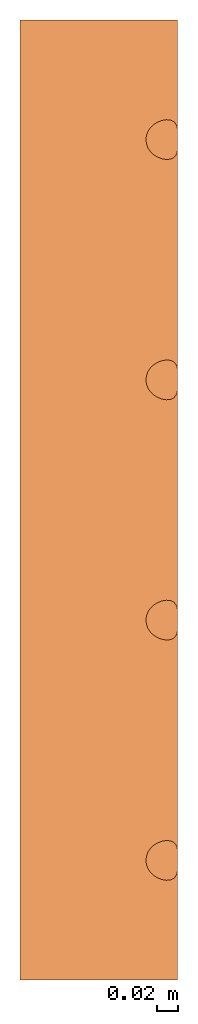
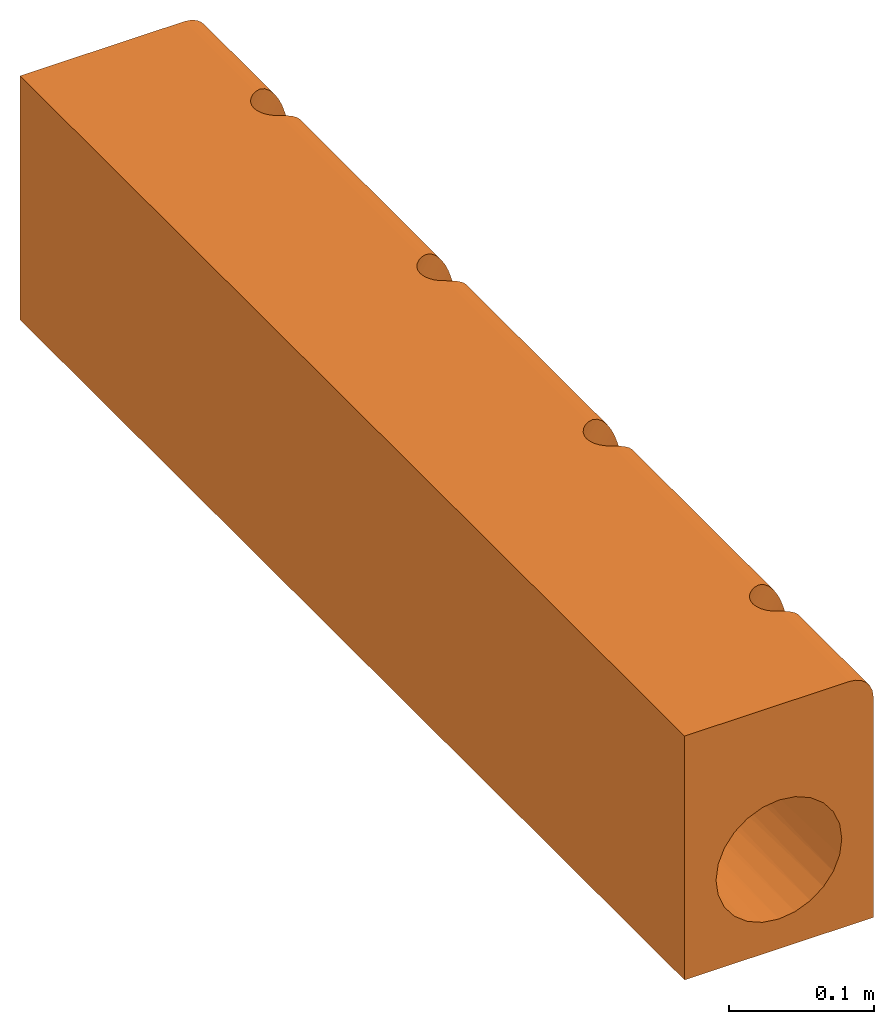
# One storey: 1 proxy.
"""IFC2X3 building model written with IfcOpenShell, lengths in millimetres."""

from ifc_helpers import new_model, entity, si_unit, converted_unit, direction, frame, origin, place, context, subcontext, project, spatial, faceted_brep, source, transform, mapped, material, element, save


model = new_model("IFC2X3")

# Units and contexts
model_context = context("Model", 3, precision=1e-06, world=origin(), true_north=direction((2.0, 6.12303176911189e-17, 1.0)))
context_of_model = context(None, 3, precision=1e-06, world=origin(), true_north=direction((2.0, 6.12303176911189e-17, 1.0)))
body_context = subcontext(model_context, "Body", "Model", "MODEL_VIEW")
ifc_project = project(units=[si_unit("LENGTHUNIT", "METRE", prefix="MILLI"), si_unit("AREAUNIT", "SQUARE_METRE", prefix="MILLI"), si_unit("VOLUMEUNIT", "CUBIC_METRE", prefix="MILLI"), converted_unit("PLANEANGLEUNIT", "DEGREE", entity("IfcRatioMeasure", 0.0174532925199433), si_unit("PLANEANGLEUNIT", "RADIAN"), dimensions=[0, 0, 0, 0, 0, 0, 0]), si_unit("TIMEUNIT", "SECOND")], contexts=[model_context, context_of_model])

# Site, building, storey
site_placement = place(None, origin())
site = spatial("IfcSite", under=ifc_project, at=site_placement, Name="Default", CompositionType="ELEMENT")
building_placement = place(site_placement, origin())
building = spatial("IfcBuilding", under=site, at=building_placement, CompositionType="ELEMENT")
storey_placement = place(building_placement, frame((0.0, 0.0, -300.0)))
storey = spatial("IfcBuildingStorey", under=building, at=storey_placement, Name="T.O. Fnd. Wall", CompositionType="ELEMENT", Elevation=-300.0)

# Proxy
ifc_material = material(Name="ACO Polymer Concrete.")
shared_shape = source(origin(), body_context, "Body", "Brep", [
    faceted_brep([(75.0, 352.738023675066, 6.0), (75.0, 562.261976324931, 6.0), (74.6330494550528, 559.490417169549, 9.71610925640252), (74.6330494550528, 355.509582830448, 9.71610925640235), (73.4842917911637, 358.057012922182, 13.4363660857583), (73.4842917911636, 556.942987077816, 13.4363660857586), (71.455145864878, 554.83148414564, 17.0516273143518), (71.4551458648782, 360.168515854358, 17.0516273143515), (68.4733641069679, 553.424261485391, 20.3323127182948), (68.4733641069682, 361.575738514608, 20.3323127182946), (64.6347644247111, 553.009613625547, 22.9245633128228), (64.6347644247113, 361.990386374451, 22.9245633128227), (60.3150928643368, 361.283076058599, 24.503512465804), (60.3150928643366, 553.7169239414, 24.503512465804), (56.0, 555.398231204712, 25.0), (56.0, 359.601768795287, 25.0), (75.0, 581.738023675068, 6.0), (75.0, 791.261976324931, 6.0), (74.6330494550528, 788.490417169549, 9.71610925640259), (74.6330494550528, 584.509582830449, 9.71610925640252), (73.4842917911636, 587.057012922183, 13.4363660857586), (73.4842917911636, 785.942987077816, 13.4363660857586), (71.455145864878, 783.83148414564, 17.0516273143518), (71.455145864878, 589.168515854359, 17.0516273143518), (68.4733641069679, 782.42426148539, 20.3323127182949), (68.4733641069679, 590.575738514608, 20.3323127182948), (64.634764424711, 782.009613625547, 22.9245633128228), (64.634764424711, 590.990386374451, 22.9245633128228), (60.3150928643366, 590.283076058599, 24.503512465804), (60.3150928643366, 782.7169239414, 24.5035124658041), (56.0, 784.398231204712, 25.0), (56.0, 588.601768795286, 25.0), (74.6330494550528, 813.509582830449, 9.71610925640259), (75.0, 915.0, 6.0), (74.3525906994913, 915.0, 10.9175618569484), (73.4842917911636, 816.057012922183, 13.4363660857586), (72.4544826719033, 915.0, 15.5000000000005), (75.0, 810.738023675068, 6.0), (71.455145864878, 818.168515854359, 17.0516273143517), (69.4350288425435, 915.0, 19.4350288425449), (68.4733641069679, 819.575738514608, 20.3323127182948), (65.4999999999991, 915.0, 22.4544826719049), (64.6347644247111, 819.990386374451, 22.9245633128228), (60.9175618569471, 915.0, 24.3525906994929), (60.3150928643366, 819.283076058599, 24.5035124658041), (56.0, 915.0, 25.0), (56.0, 817.601768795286, 25.0), (75.0, 123.738023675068, 6.0), (75.0, 333.261976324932, 6.0), (74.6330494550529, 330.490417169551, 9.7161092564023), (74.6330494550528, 126.509582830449, 9.7161092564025), (73.4842917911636, 129.057012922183, 13.4363660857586), (73.4842917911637, 327.942987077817, 13.4363660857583), (71.4551458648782, 325.83148414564, 17.0516273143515), (71.4551458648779, 131.168515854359, 17.0516273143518), (68.4733641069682, 324.424261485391, 20.3323127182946), (68.4733641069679, 132.575738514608, 20.3323127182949), (64.6347644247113, 324.009613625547, 22.9245633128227), (64.634764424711, 132.990386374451, 22.9245633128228), (60.3150928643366, 132.283076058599, 24.503512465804), (60.3150928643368, 324.7169239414, 24.503512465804), (56.0, 326.398231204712, 25.0), (56.0, 130.601768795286, 25.0), (-75.0, 0.0, -180.0), (-35.3553390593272, 0.0, -140.355339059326), (-43.3012701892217, 0.0, -130.0), (-25.0, 0.0, -148.301270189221), (-48.2962913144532, 0.0, -117.940952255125), (-50.0, 0.0, -105.0), (75.0, 0.0, -180.0), (12.9409522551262, 0.0, -153.296291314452), (0.0, 0.0, -155.0), (-12.9409522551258, 0.0, -153.296291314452), (-48.2962913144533, 0.0, -92.0590477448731), (-75.0, 0.0, 25.0), (-43.3012701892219, 0.0, -80.0), (-35.3553390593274, 0.0, -69.6446609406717), (-25.0, 0.0, -61.6987298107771), (0.0, 0.0, -55.0), (56.0, 0.0, 25.0), (-12.9409522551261, 0.0, -56.7037086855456), (6.47047612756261, 0.0, -55.8518543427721), (12.9409522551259, 0.0, -56.7037086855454), (35.3553390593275, 0.0, -140.355339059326), (25.0, 0.0, -148.301270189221), (43.3012701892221, 0.0, -130.0), (50.0, 0.0, -105.0), (48.2962913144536, 0.0, -117.940952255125), (75.0, 0.0, 6.0), (48.2962913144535, 0.0, -92.0590477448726), (43.3012701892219, 0.0, -80.0), (18.9704761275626, 0.0, -59.201219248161), (72.4544826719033, 0.0, 15.5000000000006), (60.9175618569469, 0.0, 24.3525906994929), (74.3525906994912, 0.0, 10.9175618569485), (25.0, 0.0, -61.6987298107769), (30.1776695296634, 0.0, -65.6716953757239), (35.3553390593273, 0.0, -69.6446609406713), (69.4350288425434, 0.0, 19.435028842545), (65.499999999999, 0.0, 22.4544826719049), (39.3283046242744, 0.0, -74.8223304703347), (75.0, 915.0, -180.0), (48.2962913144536, 915.0, -117.940952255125), (50.0, 915.0, -105.0), (43.3012701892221, 915.0, -130.0), (48.2962913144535, 915.0, -92.0590477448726), (25.0, 915.0, -148.301270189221), (35.3553390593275, 915.0, -140.355339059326), (12.9409522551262, 915.0, -153.296291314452), (43.3012701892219, 915.0, -80.0), (12.9409522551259, 915.0, -56.7037086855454), (6.47047612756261, 915.0, -55.8518543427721), (25.0, 915.0, -61.6987298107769), (18.9704761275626, 915.0, -59.201219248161), (35.3553390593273, 915.0, -69.6446609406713), (30.1776695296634, 915.0, -65.6716953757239), (39.3283046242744, 915.0, -74.8223304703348), (-12.9409522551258, 915.0, -153.296291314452), (0.0, 915.0, -155.0), (-75.0, 915.0, -180.0), (-25.0, 915.0, -148.301270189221), (-35.3553390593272, 915.0, -140.355339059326), (-43.3012701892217, 915.0, -130.0), (-48.2962913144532, 915.0, -117.940952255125), (-50.0, 915.0, -105.0), (-75.0, 915.0, 25.0), (0.0, 915.0, -55.0), (-12.9409522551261, 915.0, -56.7037086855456), (-25.0, 915.0, -61.6987298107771), (-48.2962913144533, 915.0, -92.0590477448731), (-35.3553390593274, 915.0, -69.6446609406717), (-43.3012701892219, 915.0, -80.0), (75.0, 114.0, 0.085216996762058), (75.0, 111.451605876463, 0.463371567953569), (75.0, 116.548394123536, 0.463371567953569), (75.0, 119.050735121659, 1.59100148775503), (75.0, 337.94926487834, 1.59100148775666), (75.0, 108.949264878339, 1.591001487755), (75.0, 345.548394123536, 0.463371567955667), (75.0, 343.0, 0.0852169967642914), (75.0, 340.451605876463, 0.463371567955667), (75.0, 569.451605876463, 0.463371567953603), (75.0, 348.050735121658, 1.59100148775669), (75.0, 335.538197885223, 3.44772887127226), (75.0, 121.461802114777, 3.44772887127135), (75.0, 106.538197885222, 3.44772887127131), (75.0, 104.261976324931, 6.0), (75.0, 350.461802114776, 3.44772887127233), (75.0, 564.538197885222, 3.44772887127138), (75.0, 566.949264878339, 1.59100148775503), (75.0, 572.0, 0.0852169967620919), (75.0, 577.050735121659, 1.59100148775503), (75.0, 574.548394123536, 0.463371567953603), (75.0, 801.0, 0.085216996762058), (75.0, 803.548394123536, 0.463371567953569), (75.0, 798.451605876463, 0.463371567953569), (75.0, 795.949264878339, 1.591001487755), (75.0, 806.050735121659, 1.591001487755), (75.0, 579.461802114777, 3.44772887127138), (75.0, 793.538197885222, 3.44772887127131), (75.0, 808.461802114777, 3.44772887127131), (56.0, 97.3982312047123, 25.0), (52.3022377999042, 99.7215002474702, 25.0), (49.2378531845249, 102.687611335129, 25.0), (52.3022377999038, 328.721500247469, 25.0), (49.2378531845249, 125.312388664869, 25.0), (52.3022377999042, 128.278499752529, 25.0), (49.2378531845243, 331.687611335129, 25.0), (46.9448098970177, 121.83697483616, 25.0), (52.3022377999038, 357.278499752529, 25.0), (52.3022377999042, 557.72150024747, 25.0), (46.9448098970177, 106.163025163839, 25.0), (45.5263445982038, 109.991272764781, 25.0), (45.046318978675, 114.0, 25.0), (45.5263445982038, 118.008727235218, 25.0), (46.9448098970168, 335.163025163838, 25.0), (46.9448098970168, 350.83697483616, 25.0), (49.2378531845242, 354.31238866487, 25.0), (46.9448098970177, 564.163025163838, 25.0), (45.5263445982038, 567.991272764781, 25.0), (45.0463189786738, 343.0, 25.0), (45.5263445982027, 347.008727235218, 25.0), (45.5263445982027, 338.991272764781, 25.0), (49.237853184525, 560.687611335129, 25.0), (52.3022377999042, 786.72150024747, 25.0), (52.3022377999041, 586.278499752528, 25.0), (49.2378531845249, 583.312388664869, 25.0), (49.2378531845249, 789.687611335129, 25.0), (46.9448098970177, 793.163025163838, 25.0), (52.3022377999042, 815.278499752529, 25.0), (49.2378531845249, 812.312388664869, 25.0), (45.046318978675, 572.0, 25.0), (45.5263445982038, 576.008727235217, 25.0), (46.9448098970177, 579.83697483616, 25.0), (45.5263445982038, 805.008727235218, 25.0), (46.9448098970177, 808.83697483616, 25.0), (45.5263445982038, 796.991272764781, 25.0), (45.046318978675, 801.0, 25.0), (74.6330494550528, 101.490417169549, 9.7161092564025), (73.4842917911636, 98.9429870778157, 13.4363660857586), (71.455145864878, 96.8314841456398, 17.0516273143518), (68.4733641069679, 95.4242614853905, 20.3323127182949), (64.634764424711, 95.0096136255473, 22.9245633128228), (60.3150928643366, 95.7169239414, 24.503512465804), (-46.1939766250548, 457.499999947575, -85.8658283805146), (-39.667667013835, 347.332705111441, -74.5619285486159), (-11.072826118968, 457.50000007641, -56.2414876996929), (-21.2473415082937, 319.428371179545, -59.739084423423), (-30.438071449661, 457.499999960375, -65.3323329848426), (4.19448053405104, 343.0, -55.176247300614), (-49.039264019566, 307.805136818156, -95.2454838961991), (4.19448053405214, 114.0, -55.1762473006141), (5.43633829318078, 120.540044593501, -55.2964163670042), (4.81540941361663, 117.27002229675, -55.2363318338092), (4.81540941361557, 339.729977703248, -55.236331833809), (4.19448053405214, 572.0, -55.1762473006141), (8.87975325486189, 126.225202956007, -55.7948175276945), (5.43633829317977, 336.459955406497, -55.2964163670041), (8.87975325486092, 330.774797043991, -55.7948175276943), (4.81540941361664, 110.729977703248, -55.2363318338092), (5.43633829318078, 107.459955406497, -55.2964163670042), (38.008787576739, 801.0, -72.5141251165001), (13.9032262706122, 97.565335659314, -56.971880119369), (16.851806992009, 96.4287615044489, -58.0297609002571), (19.8003877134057, 95.2921873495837, -59.0876416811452), (8.87975325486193, 101.774797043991, -55.7948175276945), (-39.6676670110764, 663.022798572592, -74.5619285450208), (-19.8042307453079, 639.427608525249, -59.0892992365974), (49.0792507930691, 299.075570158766, -95.4487099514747), (46.4301608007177, 457.499999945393, -86.4462896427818), (49.099429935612, 614.764322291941, -95.5529909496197), (-50.0, 457.499999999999, -105.0), (13.9032262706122, 130.434664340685, -56.971880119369), (13.9032262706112, 326.565335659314, -56.9718801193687), (30.8798420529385, 817.429417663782, -65.6752577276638), (34.7714966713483, 813.216245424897, -69.070304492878), (8.87975325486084, 355.225202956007, -55.7948175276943), (5.43633829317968, 349.540044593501, -55.2964163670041), (5.43633829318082, 565.459955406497, -55.2964163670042), (8.87975325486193, 559.774797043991, -55.7948175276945), (16.851806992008, 325.428761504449, -58.0297609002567), (19.8003877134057, 132.707812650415, -59.0876416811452), (16.8518069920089, 131.57123849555, -58.0297609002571), (-49.1517479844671, 621.55277200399, -95.8290856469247), (25.7229622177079, 132.704779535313, -62.1242584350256), (22.7616749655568, 132.706296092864, -60.6059500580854), (19.8003877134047, 324.292187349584, -59.0876416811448), (22.7616749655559, 324.293703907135, -60.6059500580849), (4.81540941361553, 346.27002229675, -55.236331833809), (4.81540941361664, 568.729977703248, -55.2363318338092), (5.43633829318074, 578.540044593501, -55.2964163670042), (4.81540941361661, 575.27002229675, -55.2363318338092), (4.19448053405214, 801.0, -55.1762473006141), (4.81540941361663, 797.729977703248, -55.2363318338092), (8.87975325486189, 584.225202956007, -55.7948175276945), (5.43633829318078, 794.459955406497, -55.2964163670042), (8.87975325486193, 788.774797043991, -55.7948175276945), (19.8003877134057, 819.707812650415, -59.0876416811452), (25.7229622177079, 95.2952204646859, -62.1242584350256), (28.3014021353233, 96.4329014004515, -63.8997580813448), (30.8798420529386, 97.5705823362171, -65.6752577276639), (5.43633829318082, 807.540044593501, -55.2964163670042), (4.81540941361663, 804.27002229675, -55.2363318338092), (37.1851455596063, 107.461596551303, -71.5744865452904), (37.5969665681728, 110.730798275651, -72.0443058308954), (38.008787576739, 114.0, -72.5141251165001), (13.9032262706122, 555.565335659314, -56.971880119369), (13.9032262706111, 359.434664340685, -56.9718801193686), (16.8518069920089, 554.428761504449, -58.0297609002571), (19.8003877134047, 361.707812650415, -59.0876416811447), (16.8518069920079, 360.57123849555, -58.0297609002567), (25.722962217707, 361.704779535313, -62.1242584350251), (22.7616749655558, 361.706296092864, -60.6059500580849), (19.8003877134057, 553.292187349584, -59.0876416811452), (22.7616749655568, 553.293703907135, -60.6059500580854), (8.87975325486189, 813.225202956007, -55.7948175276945), (19.8003877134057, 590.707812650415, -59.0876416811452), (16.8518069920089, 589.57123849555, -58.029760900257), (13.9032262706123, 784.565335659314, -56.971880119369), (16.851806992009, 783.428761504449, -58.0297609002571), (16.8518069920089, 818.57123849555, -58.0297609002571), (13.9032262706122, 817.434664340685, -56.971880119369), (13.9032262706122, 588.434664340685, -56.971880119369), (50.0, 493.801590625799, -105.0), (50.0, 457.499999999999, -105.0), (34.7714966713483, 101.783754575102, -69.070304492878), (34.7714966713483, 126.216245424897, -69.070304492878), (30.8798420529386, 130.429417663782, -65.6752577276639), (30.8798420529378, 326.570582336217, -65.6752577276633), (34.7714966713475, 330.783754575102, -69.0703044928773), (28.3014021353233, 131.567098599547, -63.8997580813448), (25.7229622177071, 324.295220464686, -62.1242584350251), (28.3014021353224, 325.432901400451, -63.8997580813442), (30.8798420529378, 359.429417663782, -65.6752577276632), (28.3014021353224, 360.567098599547, -63.8997580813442), (25.7229622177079, 553.295220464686, -62.1242584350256), (28.3014021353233, 554.432901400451, -63.8997580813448), (38.0087875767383, 343.0, -72.5141251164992), (37.1851455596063, 120.538403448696, -71.5744865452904), (37.1851455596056, 336.461596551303, -71.5744865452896), (37.5969665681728, 117.269201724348, -72.0443058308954), (37.5969665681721, 339.730798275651, -72.0443058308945), (37.1851455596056, 349.538403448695, -71.5744865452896), (34.7714966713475, 355.216245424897, -69.0703044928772), (34.7714966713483, 559.783754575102, -69.070304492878), (37.1851455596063, 565.461596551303, -71.5744865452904), (30.8798420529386, 555.570582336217, -65.6752577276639), (37.5969665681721, 346.269201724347, -72.0443058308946), (37.5969665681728, 568.730798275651, -72.0443058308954), (25.7229622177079, 590.704779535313, -62.1242584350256), (22.7616749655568, 590.706296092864, -60.6059500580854), (19.8003877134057, 782.292187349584, -59.0876416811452), (22.7616749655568, 782.293703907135, -60.6059500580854), (30.8798420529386, 588.429417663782, -65.6752577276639), (28.3014021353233, 589.567098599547, -63.8997580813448), (25.7229622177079, 782.295220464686, -62.1242584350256), (28.3014021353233, 783.432901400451, -63.8997580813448), (34.7714966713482, 584.216245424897, -69.070304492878), (30.8798420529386, 784.570582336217, -65.6752577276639), (34.7714966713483, 788.783754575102, -69.070304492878), (25.7229622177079, 819.704779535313, -62.1242584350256), (22.7616749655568, 819.706296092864, -60.6059500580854), (28.3014021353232, 818.567098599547, -63.8997580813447), (37.1851455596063, 578.538403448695, -71.5744865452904), (37.1851455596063, 794.461596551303, -71.5744865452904), (38.008787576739, 572.0, -72.5141251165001), (37.5969665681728, 575.269201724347, -72.0443058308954), (37.5969665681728, 797.730798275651, -72.0443058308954), (37.1851455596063, 807.538403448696, -71.5744865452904), (37.5969665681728, 804.269201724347, -72.0443058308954), (22.7616749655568, 95.2937039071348, -60.6059500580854), (30.4380713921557, 663.022799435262, -144.667667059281), (46.1939765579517, 251.97720488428, -124.134171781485), (39.6676669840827, 457.500000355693, -135.438071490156), (30.4380714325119, 347.33270578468, -144.667667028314), (19.1341716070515, 457.499999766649, -151.193976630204), (-39.6676670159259, 251.977201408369, -135.438071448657), (-30.4380714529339, 347.332705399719, -144.667667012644), (-39.6676670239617, 567.667294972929, -135.438071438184), (-30.4380714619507, 663.022798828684, -144.667667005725), (6.526309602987, 347.332705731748, -154.572243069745), (49.087149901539, 586.520540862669, -114.510610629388), (49.2493073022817, 294.576737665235, -113.631670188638), (46.1939765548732, 567.667299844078, -124.134171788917), (6.52630957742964, 663.022799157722, -154.572243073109), (-19.134171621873, 457.49999987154, -151.193976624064), (-6.52630961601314, 251.977201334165, -154.57224306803), (-6.52630964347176, 567.667295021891, -154.572243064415), (-46.1939766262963, 457.499999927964, -124.134171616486), (-49.1517479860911, 293.447227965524, -114.170914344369), (-49.0392640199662, 607.194863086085, -114.754516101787)], [[[0, 1, 2, 3]], [[4, 5, 6, 7]], [[3, 2, 5, 4]], [[7, 6, 8, 9]], [[9, 8, 10, 11]], [[12, 13, 14, 15]], [[11, 10, 13, 12]], [[16, 17, 18, 19]], [[20, 21, 22, 23]], [[19, 18, 21, 20]], [[23, 22, 24, 25]], [[25, 24, 26, 27]], [[28, 29, 30, 31]], [[27, 26, 29, 28]], [[32, 33, 34]], [[35, 34, 36]], [[32, 37, 33]], [[38, 35, 36]], [[32, 34, 35]], [[36, 39, 38]], [[40, 39, 41]], [[42, 41, 43]], [[44, 43, 45]], [[42, 40, 41]], [[46, 44, 45]], [[42, 43, 44]], [[39, 40, 38]], [[47, 48, 49, 50]], [[51, 52, 53, 54]], [[50, 49, 52, 51]], [[54, 53, 55, 56]], [[56, 55, 57, 58]], [[59, 60, 61, 62]], [[58, 57, 60, 59]], [[63, 64, 65]], [[64, 63, 66]], [[65, 67, 63]], [[63, 67, 68]], [[69, 70, 71]], [[72, 66, 63]], [[71, 72, 63, 69]], [[68, 73, 74, 63]], [[74, 75, 76]], [[75, 74, 73]], [[76, 77, 74]], [[78, 79, 74, 80]], [[77, 80, 74]], [[79, 78, 81, 82]], [[83, 84, 69]], [[83, 69, 85]], [[86, 87, 69, 88]], [[69, 87, 85]], [[88, 89, 86]], [[84, 70, 69]], [[90, 89, 88]], [[88, 79, 82, 91]], [[92, 93, 79, 94]], [[88, 95, 96, 97]], [[98, 99, 93, 92]], [[94, 79, 88]], [[88, 97, 100, 90]], [[101, 102, 103, 33]], [[102, 101, 104]], [[33, 103, 105]], [[106, 107, 101]], [[107, 104, 101]], [[101, 108, 106]], [[105, 109, 33]], [[45, 36, 34, 33]], [[39, 36, 43, 41]], [[45, 33, 110, 111]], [[36, 45, 43]], [[33, 112, 113, 110]], [[33, 114, 115, 112]], [[33, 109, 116, 114]], [[117, 118, 119]], [[117, 119, 120]], [[118, 108, 101, 119]], [[121, 119, 122]], [[119, 121, 120]], [[123, 122, 119]], [[124, 123, 119, 125]], [[126, 127, 125, 45]], [[128, 125, 127]], [[129, 124, 125]], [[130, 131, 125]], [[125, 131, 129]], [[130, 125, 128]], [[69, 63, 119, 101]], [[69, 132, 133]], [[132, 69, 134]], [[135, 134, 69, 136]], [[69, 133, 137]], [[138, 139, 69, 101]], [[140, 136, 69]], [[141, 142, 138, 101]], [[139, 140, 69]], [[135, 136, 143, 144]], [[88, 145, 146]], [[137, 145, 88, 69]], [[48, 47, 144, 143]], [[0, 147, 148, 1]], [[149, 147, 142, 141]], [[150, 141, 101]], [[151, 152, 101]], [[150, 101, 152]], [[153, 101, 154]], [[101, 153, 155]], [[101, 155, 156, 151]], [[157, 154, 101, 33]], [[158, 151, 156, 159]], [[159, 17, 16, 158]], [[160, 33, 37]], [[33, 160, 157]], [[149, 148, 147]], [[79, 161, 162]], [[79, 162, 163, 74]], [[164, 165, 166, 61]], [[165, 164, 167, 168]], [[169, 15, 14, 170]], [[166, 62, 61]], [[171, 172, 74]], [[74, 173, 174]], [[173, 74, 172]], [[74, 174, 168, 175]], [[171, 74, 163]], [[175, 168, 167]], [[176, 177, 178, 179]], [[74, 180, 181, 125]], [[182, 180, 74]], [[176, 179, 181]], [[175, 182, 74]], [[177, 169, 183, 178]], [[184, 185, 31, 30]], [[186, 185, 187, 188]], [[189, 46, 45]], [[190, 189, 45, 125]], [[184, 187, 185]], [[191, 192, 125]], [[179, 191, 125, 181]], [[193, 125, 192]], [[193, 186, 188]], [[194, 195, 125]], [[196, 197, 125]], [[125, 197, 194]], [[188, 196, 125, 193]], [[195, 190, 125]], [[170, 183, 169]], [[119, 63, 74, 125]], [[198, 199, 94]], [[146, 198, 88]], [[88, 198, 94]], [[92, 200, 98]], [[92, 94, 199]], [[200, 92, 199]], [[201, 202, 99]], [[203, 161, 79]], [[202, 203, 93]], [[98, 201, 99]], [[99, 202, 93]], [[203, 79, 93]], [[201, 98, 200]], [[73, 204, 75]], [[204, 205, 75]], [[206, 80, 207]], [[77, 76, 208]], [[209, 78, 206]], [[204, 73, 210]], [[209, 211, 78]], [[212, 213, 209, 214]], [[206, 215, 209]], [[216, 212, 217, 218]], [[81, 211, 219, 220]], [[116, 109, 221]], [[78, 211, 81]], [[91, 222, 223, 224]], [[81, 225, 82]], [[226, 131, 130]], [[81, 220, 225]], [[82, 225, 222]], [[206, 207, 227]], [[228, 229, 230]], [[91, 82, 222]], [[231, 210, 68]], [[224, 95, 91]], [[232, 216, 218, 233]], [[128, 127, 227]], [[234, 115, 235]], [[207, 77, 208]], [[236, 237, 238, 239]], [[233, 240, 241, 242]], [[89, 229, 228]], [[243, 210, 231]], [[77, 207, 80]], [[244, 245, 246, 247]], [[80, 206, 78]], [[237, 248, 215, 249]], [[131, 204, 129]], [[250, 251, 252, 253]], [[252, 215, 126]], [[254, 250, 255, 256]], [[113, 112, 257]], [[96, 258, 259, 260]], [[124, 243, 231]], [[111, 261, 262, 252]], [[204, 226, 205]], [[215, 206, 126]], [[130, 128, 208]], [[227, 207, 208]], [[206, 127, 126]], [[100, 263, 264, 265]], [[68, 210, 73]], [[239, 266, 267, 236]], [[266, 268, 269, 270]], [[271, 272, 273, 274]], [[226, 130, 208]], [[129, 204, 243]], [[205, 226, 208]], [[103, 230, 105]], [[261, 111, 275]], [[205, 76, 75]], [[111, 110, 275]], [[205, 208, 76]], [[276, 277, 278, 279]], [[113, 257, 280, 281]], [[281, 275, 110]], [[131, 226, 204]], [[256, 278, 282, 254]], [[252, 126, 111]], [[128, 227, 208]], [[105, 229, 109]], [[230, 103, 283, 284]], [[96, 95, 258]], [[96, 260, 285]], [[285, 97, 96]], [[286, 287, 288, 289]], [[287, 290, 291, 292]], [[293, 294, 295, 296]], [[129, 243, 124]], [[97, 263, 100]], [[90, 100, 265]], [[229, 89, 90]], [[265, 297, 90]], [[297, 229, 90]], [[298, 286, 289, 299]], [[265, 300, 299, 301]], [[302, 303, 304, 305]], [[303, 293, 306, 304]], [[297, 307, 305, 308]], [[263, 97, 285]], [[284, 86, 228]], [[309, 310, 311, 312]], [[228, 230, 284]], [[313, 314, 315, 316]], [[317, 313, 318, 319]], [[112, 320, 321, 257]], [[210, 243, 204]], [[89, 228, 86]], [[281, 110, 113]], [[115, 234, 322, 320]], [[112, 115, 320]], [[206, 227, 127]], [[323, 317, 319, 324]], [[325, 326, 324, 327]], [[114, 328, 235]], [[116, 221, 329, 328]], [[235, 115, 114]], [[328, 114, 116]], [[109, 325, 221]], [[109, 229, 325]], [[297, 325, 229]], [[105, 230, 229]], [[95, 224, 330, 258]], [[331, 107, 106]], [[85, 332, 333]], [[334, 331, 335]], [[85, 333, 83]], [[70, 84, 335]], [[336, 64, 337]], [[121, 338, 339]], [[334, 83, 333]], [[107, 331, 333]], [[70, 335, 340]], [[341, 283, 103]], [[342, 332, 87]], [[337, 64, 66]], [[334, 84, 83]], [[102, 104, 343]], [[343, 104, 333]], [[332, 343, 333]], [[333, 104, 107]], [[334, 333, 331]], [[340, 71, 70]], [[335, 106, 108]], [[87, 86, 342]], [[344, 340, 335]], [[342, 341, 343]], [[66, 72, 345]], [[346, 71, 340]], [[118, 347, 344]], [[345, 337, 66]], [[67, 65, 348]], [[336, 65, 64]], [[118, 344, 108]], [[338, 348, 336]], [[121, 339, 120]], [[349, 231, 68]], [[347, 117, 345]], [[345, 117, 120]], [[121, 122, 338]], [[123, 124, 350]], [[331, 106, 335]], [[339, 337, 345]], [[87, 332, 85]], [[338, 122, 348]], [[123, 348, 122]], [[283, 341, 342]], [[123, 350, 348]], [[334, 335, 84]], [[346, 72, 71]], [[346, 347, 345]], [[349, 350, 231]], [[118, 117, 347]], [[332, 342, 343]], [[342, 86, 284, 283]], [[341, 102, 343]], [[102, 341, 103]], [[108, 344, 335]], [[340, 344, 347, 346]], [[120, 339, 345]], [[337, 339, 338, 336]], [[72, 346, 345]], [[65, 336, 348]], [[67, 348, 349]], [[231, 350, 124]], [[350, 349, 348]], [[67, 349, 68]], [[166, 165, 216]], [[216, 165, 168]], [[62, 242, 59]], [[232, 62, 166]], [[245, 244, 58, 241]], [[174, 173, 213]], [[174, 212, 168]], [[59, 241, 58]], [[232, 166, 216]], [[211, 213, 173]], [[213, 212, 174]], [[212, 216, 168]], [[242, 62, 232]], [[56, 290, 54]], [[54, 287, 51]], [[50, 51, 286]], [[298, 135, 144]], [[47, 50, 286]], [[144, 47, 298]], [[290, 287, 54]], [[56, 244, 290]], [[286, 51, 287]], [[298, 300, 135]], [[300, 265, 134]], [[265, 132, 134]], [[47, 286, 298]], [[135, 300, 134]], [[242, 241, 59]], [[56, 58, 244]], [[198, 146, 285]], [[146, 145, 263]], [[200, 199, 260]], [[285, 199, 198]], [[200, 259, 201]], [[133, 264, 137]], [[172, 220, 219]], [[132, 265, 133]], [[146, 263, 285]], [[260, 199, 285]], [[145, 137, 263]], [[222, 161, 223]], [[201, 258, 202]], [[263, 137, 264]], [[224, 203, 202]], [[211, 173, 219]], [[162, 161, 222]], [[172, 219, 173]], [[203, 224, 223]], [[225, 171, 163]], [[163, 162, 225]], [[258, 201, 259]], [[202, 258, 330, 224]], [[203, 223, 161]], [[133, 265, 264]], [[225, 220, 171]], [[162, 222, 225]], [[171, 220, 172]], [[200, 260, 259]], [[169, 177, 236]], [[236, 177, 176]], [[15, 270, 12]], [[267, 15, 169]], [[272, 271, 11, 269]], [[181, 180, 248]], [[181, 237, 176]], [[12, 269, 11]], [[267, 169, 236]], [[209, 248, 180]], [[248, 237, 181]], [[237, 236, 176]], [[270, 15, 267]], [[9, 294, 7]], [[7, 293, 4]], [[3, 4, 303]], [[302, 142, 147]], [[0, 3, 303]], [[147, 0, 302]], [[294, 293, 7]], [[9, 271, 294]], [[303, 4, 293]], [[302, 307, 142]], [[307, 297, 138]], [[297, 139, 138]], [[0, 303, 302]], [[142, 307, 138]], [[270, 269, 12]], [[9, 11, 271]], [[49, 48, 289]], [[48, 143, 299]], [[53, 52, 288]], [[289, 52, 49]], [[53, 292, 55]], [[140, 301, 136]], [[182, 217, 214]], [[139, 297, 140]], [[48, 299, 289]], [[288, 52, 289]], [[143, 136, 299]], [[233, 61, 240]], [[55, 291, 57]], [[299, 136, 301]], [[246, 60, 57]], [[209, 180, 214]], [[164, 61, 233]], [[182, 214, 180]], [[60, 246, 240]], [[218, 175, 167]], [[167, 164, 218]], [[291, 55, 292]], [[57, 291, 247, 246]], [[60, 240, 61]], [[140, 297, 301]], [[218, 217, 175]], [[164, 233, 218]], [[175, 217, 182]], [[53, 288, 292]], [[185, 186, 254]], [[254, 186, 193]], [[31, 277, 28]], [[282, 31, 185]], [[310, 309, 27, 276]], [[192, 191, 251]], [[192, 250, 193]], [[28, 276, 27]], [[282, 185, 254]], [[215, 251, 191]], [[251, 250, 192]], [[250, 254, 193]], [[277, 31, 282]], [[25, 314, 23]], [[23, 313, 20]], [[19, 20, 317]], [[323, 151, 158]], [[16, 19, 317]], [[158, 16, 323]], [[314, 313, 23]], [[25, 309, 314]], [[317, 20, 313]], [[323, 326, 151]], [[326, 325, 152]], [[325, 150, 152]], [[16, 317, 323]], [[151, 326, 152]], [[277, 276, 28]], [[25, 27, 309]], [[2, 1, 304]], [[1, 148, 305]], [[6, 5, 306]], [[304, 5, 2]], [[6, 296, 8]], [[141, 308, 149]], [[179, 238, 249]], [[150, 325, 141]], [[1, 305, 304]], [[306, 5, 304]], [[148, 149, 305]], [[266, 14, 268]], [[8, 295, 10]], [[305, 149, 308]], [[273, 13, 10]], [[215, 191, 249]], [[170, 14, 266]], [[179, 249, 191]], [[13, 273, 268]], [[239, 178, 183]], [[183, 170, 239]], [[295, 8, 296]], [[10, 295, 274, 273]], [[13, 268, 14]], [[141, 325, 308]], [[239, 238, 178]], [[170, 266, 239]], [[178, 238, 179]], [[6, 306, 296]], [[189, 190, 275]], [[275, 190, 195]], [[46, 280, 44]], [[281, 46, 189]], [[321, 320, 42, 257]], [[194, 197, 262]], [[194, 261, 195]], [[44, 257, 42]], [[281, 189, 275]], [[252, 262, 197]], [[262, 261, 194]], [[261, 275, 195]], [[280, 46, 281]], [[40, 322, 38]], [[38, 234, 35]], [[32, 35, 235]], [[328, 157, 160]], [[37, 32, 235]], [[160, 37, 328]], [[322, 234, 38]], [[40, 320, 322]], [[235, 35, 234]], [[328, 329, 157]], [[329, 221, 154]], [[221, 153, 154]], [[37, 235, 328]], [[157, 329, 154]], [[280, 257, 44]], [[40, 42, 320]], [[18, 17, 319]], [[17, 159, 324]], [[22, 21, 318]], [[319, 21, 18]], [[22, 316, 24]], [[155, 327, 156]], [[196, 255, 253]], [[153, 221, 155]], [[17, 324, 319]], [[318, 21, 319]], [[159, 156, 324]], [[278, 30, 279]], [[24, 315, 26]], [[324, 156, 327]], [[311, 29, 26]], [[252, 197, 253]], [[184, 30, 278]], [[196, 253, 197]], [[29, 311, 279]], [[256, 188, 187]], [[187, 184, 256]], [[315, 24, 316]], [[26, 315, 312, 311]], [[29, 279, 30]], [[155, 221, 327]], [[256, 255, 188]], [[184, 278, 256]], [[188, 255, 196]], [[22, 318, 316]], [[88, 91, 95]], [[45, 111, 126]], [[209, 213, 211]], [[212, 214, 217]], [[241, 240, 246]], [[233, 242, 232]], [[246, 245, 241]], [[215, 248, 209]], [[237, 249, 238]], [[252, 251, 215]], [[250, 253, 255]], [[269, 268, 273]], [[266, 270, 267]], [[273, 272, 269]], [[278, 277, 282]], [[291, 290, 244]], [[244, 247, 291]], [[295, 294, 271]], [[293, 296, 306]], [[287, 292, 288]], [[271, 274, 295]], [[299, 300, 298]], [[265, 301, 297]], [[305, 307, 302]], [[311, 310, 276]], [[309, 312, 315]], [[276, 279, 311]], [[315, 314, 309]], [[313, 316, 318]], [[324, 326, 323]], [[325, 327, 221]], [[297, 308, 325]]]),
])
proxy_placement = place(storey_placement, frame((-4264.21056397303, -6896.5502196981, 300.0)))
element("IfcBuildingElementProxy", 1, at=proxy_placement, inside=storey, material=ifc_material, Name="Civil-Drainage-Channel-ACO-KerbDrain-HB305 - PART 1:4982 - Perforated centre stone - 915mm LG:4982 - Perforated centre stone - 915mm LG", ObjectType="4982 - Perforated centre stone - 915mm LG", CompositionType="ELEMENT", context=body_context, shape_type="MappedRepresentation", body=[
    mapped(shared_shape, transform((0.0, 0.0, 0.0), scale=1.0)),
])

save(model, "model.ifc")
